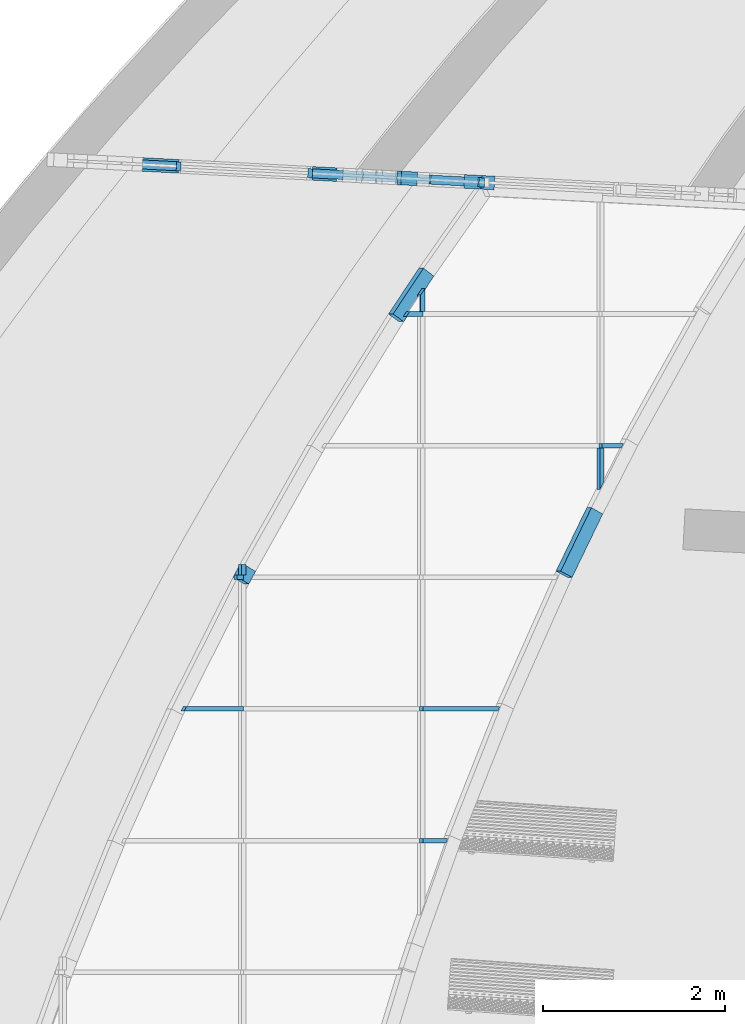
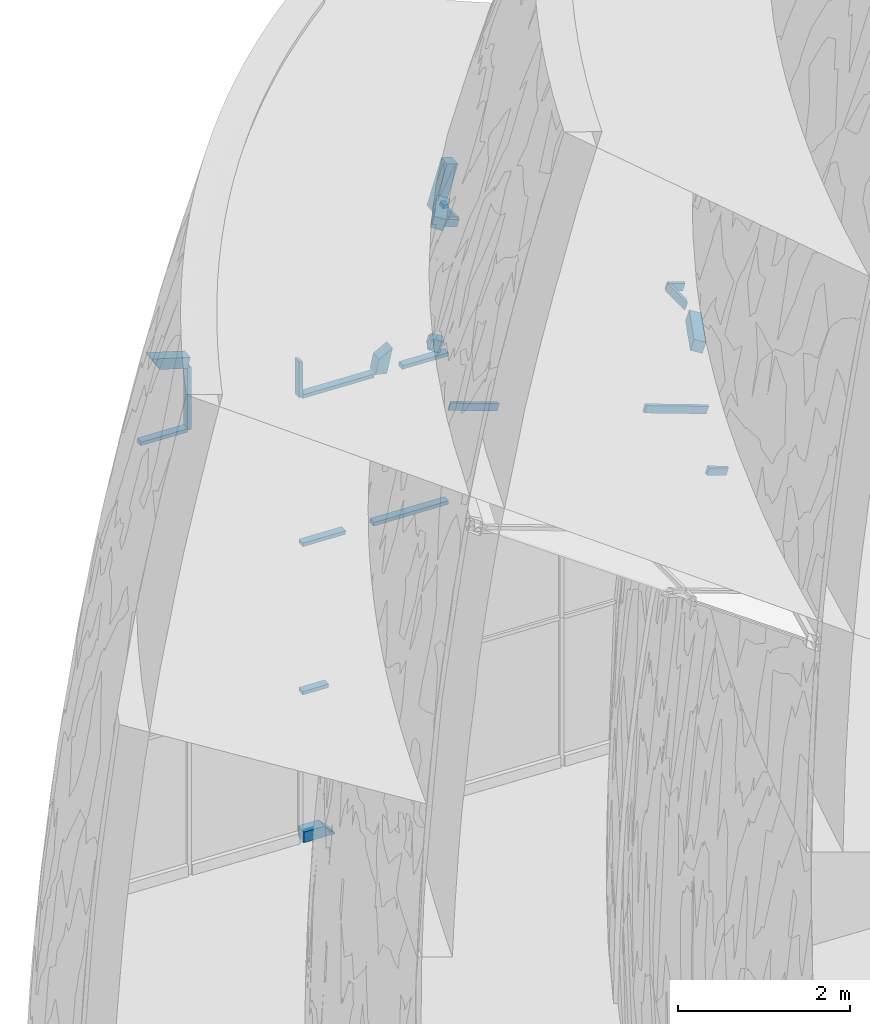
# One storey, part 30 of 82: 25 members, 2 elements without a shape of their own.
"""IFC2X3 building model written with IfcOpenShell, lengths in millimetres."""

from ifc_helpers import new_model, entity, si_unit, converted_unit, derived_unit, direction, frame, frame_2d, origin, origin_2d_with_axis, place, context, subcontext, project, spatial, polyline, rectangle, extrude, clip, halfspace, bounded_halfspace, source, transform, mapped, material, type_object, type_shapes, element, aggregate, save


model = new_model("IFC2X3")

# Units and contexts
model_context = context("Model", 3, precision=0.01, world=origin(), true_north=direction((6.12303176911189e-17, 1.0)))
body_context = subcontext(model_context, "Body", "Model", "MODEL_VIEW")
ifc_project = project(units=[si_unit("LENGTHUNIT", "METRE", prefix="MILLI"), si_unit("AREAUNIT", "SQUARE_METRE"), si_unit("VOLUMEUNIT", "CUBIC_METRE"), converted_unit("PLANEANGLEUNIT", "DEGREE", entity("IfcRatioMeasure", 0.0174532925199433), si_unit("PLANEANGLEUNIT", "RADIAN"), dimensions=[0, 0, 0, 0, 0, 0, 0]), si_unit("MASSUNIT", "GRAM", prefix="KILO"), derived_unit("MASSDENSITYUNIT", [(si_unit("MASSUNIT", "GRAM", prefix="KILO"), 1), (si_unit("LENGTHUNIT", "METRE"), -3)]), si_unit("TIMEUNIT", "SECOND"), si_unit("FREQUENCYUNIT", "HERTZ"), si_unit("THERMODYNAMICTEMPERATUREUNIT", "DEGREE_CELSIUS"), derived_unit("THERMALTRANSMITTANCEUNIT", [(si_unit("MASSUNIT", "GRAM", prefix="KILO"), 1), (si_unit("THERMODYNAMICTEMPERATUREUNIT", "KELVIN"), -1), (si_unit("TIMEUNIT", "SECOND"), -3)]), derived_unit("VOLUMETRICFLOWRATEUNIT", [(si_unit("LENGTHUNIT", "METRE"), 3), (si_unit("TIMEUNIT", "SECOND"), -1)]), si_unit("ELECTRICCURRENTUNIT", "AMPERE"), si_unit("ELECTRICVOLTAGEUNIT", "VOLT"), si_unit("POWERUNIT", "WATT"), si_unit("FORCEUNIT", "NEWTON", prefix="KILO"), si_unit("ILLUMINANCEUNIT", "LUX"), si_unit("LUMINOUSFLUXUNIT", "LUMEN"), si_unit("LUMINOUSINTENSITYUNIT", "CANDELA"), derived_unit("USERDEFINED", [(si_unit("MASSUNIT", "GRAM", prefix="KILO"), -1), (si_unit("LENGTHUNIT", "METRE"), -2), (si_unit("TIMEUNIT", "SECOND"), 3), (si_unit("LUMINOUSFLUXUNIT", "LUMEN"), 1)]), derived_unit("LINEARVELOCITYUNIT", [(si_unit("LENGTHUNIT", "METRE"), 1), (si_unit("TIMEUNIT", "SECOND"), -1)]), si_unit("PRESSUREUNIT", "PASCAL"), derived_unit("USERDEFINED", [(si_unit("LENGTHUNIT", "METRE"), -2), (si_unit("MASSUNIT", "GRAM", prefix="KILO"), 1), (si_unit("TIMEUNIT", "SECOND"), -2)])], contexts=[model_context])

# Site, building, storey
site_placement = place(None, origin())
site = spatial("IfcSite", under=ifc_project, at=site_placement, Name="表面", CompositionType="ELEMENT")
building_placement = place(site_placement, origin())
building = spatial("IfcBuilding", under=site, at=building_placement, CompositionType="ELEMENT")
storey_placement = place(building_placement, origin())
storey = spatial("IfcBuildingStorey", under=building, at=storey_placement, Name="1F", CompositionType="ELEMENT", Elevation=0.0)

# Curtain wall, members
curtain_wall_type = type_object("IfcCurtainWallType", Name="幕墙系统:1450 x 2100mm", PredefinedType="NOTDEFINED")
curtain_wall_1_placement = place(storey_placement, origin())
curtain_wall_1 = element("IfcCurtainWall", 1, at=curtain_wall_1_placement, inside=storey, type_object=curtain_wall_type, Name="幕墙系统:1450 x 2100mm", ObjectType="幕墙系统:1450 x 2100mm")
ifc_material_1 = material(Name="木质 - 木材")
member_type_1 = type_object("IfcMemberType", Name="200 x 150mm", PredefinedType="MEMBER")
shared_shape_1 = source(origin(), body_context, "Body", "Clipping", [
    clip(extrude(rectangle(XDim=150.0, YDim=150.0, at=origin_2d_with_axis()), frame((-75.0, 0.0, -412.924190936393), z_axis=(0.0, 0.0, 1.0), x_axis=(0.0, -1.0, 0.0)), (0.0, 0.0, 1.0), 412.924190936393), halfspace(frame((0.0, -304.8, 0.0), z_axis=(-0.694612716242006, 0.0, 0.719383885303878), x_axis=(-0.719383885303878, 0.0, -0.694612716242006)), False)),
])
type_shapes(member_type_1, [shared_shape_1])
member_1_placement = place(storey_placement, frame((-33596.5702290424, 2980.13858409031, 0.0), z_axis=(0.998629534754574, -0.0523359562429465, 0.0), x_axis=(0.0, 0.0, -1.0)))
member_1 = element("IfcMember", 2, at=member_1_placement, type_object=member_type_1, material=ifc_material_1, Name="矩形竖梃:200 x 150mm", ObjectType="200 x 150mm", context=body_context, shape_type="MappedRepresentation", body=[
    mapped(shared_shape_1, transform((0.0, 0.0, 0.0), scale=1.0)),
])
member_type_2 = type_object("IfcMemberType", Name="200 x 150mm", PredefinedType="MEMBER")
shared_shape_2 = source(origin(), body_context, "Body", "Clipping", [
    clip(extrude(rectangle(XDim=150.0, YDim=150.0, at=frame_2d((0.0, 1.4210854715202e-14), x_axis=(1.0, 0.0))), frame((-75.0, 0.0, -527.765848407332), z_axis=(0.0, 0.0, 1.0), x_axis=(0.0, -1.0, 0.0)), (0.0, 0.0, 1.0), 527.765848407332), halfspace(frame((0.0, -304.8, 0.0), z_axis=(-0.718126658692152, 0.0, 0.695912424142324), x_axis=(-0.695912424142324, 0.0, -0.718126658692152)), False)),
])
type_shapes(member_type_2, [shared_shape_2])
placement_1 = place(building_placement, frame((0.0, 0.0, 6000.0)))
member_2_placement = place(placement_1, frame((-35991.0378195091, 3105.62731307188, 1479.59629560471), z_axis=(-0.964690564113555, 0.0505572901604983, 0.25848805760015), x_axis=(0.258133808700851, -0.0135282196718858, 0.966014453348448)))
member_2 = element("IfcMember", 3, at=member_2_placement, type_object=member_type_2, material=ifc_material_1, Name="矩形竖梃:200 x 150mm", ObjectType="200 x 150mm", context=body_context, shape_type="MappedRepresentation", body=[
    mapped(shared_shape_2, transform((0.0, 0.0, 0.0), scale=1.0)),
])
member_type_3 = type_object("IfcMemberType", Name="200 x 150mm", PredefinedType="MEMBER")
shared_shape_3 = source(origin(), body_context, "Body", "Clipping", [
    clip(clip(extrude(rectangle(XDim=150.0, YDim=150.0, at=frame_2d((0.0, -1.4210854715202e-14), x_axis=(1.0, 0.0))), frame((-75.0, 0.0, -350.212580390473), z_axis=(0.0, 0.0, 1.0), x_axis=(0.0, -1.0, 0.0)), (0.0, 0.0, 1.0), 350.212580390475), halfspace(frame((0.0, 304.8, -347.111052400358), z_axis=(0.0206724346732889, 0.0, -0.999786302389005), x_axis=(0.999786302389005, 0.0, 0.0206724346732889)), False)), halfspace(frame((0.0, -304.8, 0.0), z_axis=(-0.691356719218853, 0.0, 0.722513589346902), x_axis=(-0.722513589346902, 0.0, -0.691356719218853)), False)),
])
type_shapes(member_type_3, [shared_shape_3])
member_3_placement = place(placement_1, frame((-32853.6706308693, 2941.20486591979, 638.94129104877), z_axis=(0.215386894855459, -0.0112879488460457, 0.976463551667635), x_axis=(0.975125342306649, -0.0511041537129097, -0.215682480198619)))
member_3 = element("IfcMember", 4, at=member_3_placement, type_object=member_type_3, material=ifc_material_1, Name="矩形竖梃:200 x 150mm", ObjectType="200 x 150mm", context=body_context, shape_type="MappedRepresentation", body=[
    mapped(shared_shape_3, transform((0.0, 0.0, 0.0), scale=1.0)),
])
ifc_material_2 = material(Name="金属 - 铝")
member_type_4 = type_object("IfcMemberType", Name="50 x 100mm", PredefinedType="MEMBER")
shared_shape_4 = source(origin(), body_context, "Body", "Clipping", [
    clip(extrude(rectangle(XDim=100.0, YDim=50.0, at=origin_2d_with_axis()), frame((0.0, 0.0, -761.073573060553), z_axis=(0.0, 0.0, 1.0), x_axis=(0.0, -1.0, 0.0)), (0.0, 0.0, 1.0), 612.869898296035), halfspace(frame((-30.1608618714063, 75.0, -146.995076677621), z_axis=(0.228016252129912, 0.0, 0.973657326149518), x_axis=(0.973657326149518, 0.0, -0.228016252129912)), False)),
])
type_shapes(member_type_4, [shared_shape_4])
member_4_placement = place(placement_1, frame((-36266.9033720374, 3120.08481406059, 300.0), z_axis=(-0.998629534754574, 0.0523359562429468, 0.0), x_axis=(0.0, 0.0, 1.0)))
member_4 = element("IfcMember", 5, at=member_4_placement, type_object=member_type_4, material=ifc_material_2, Name="矩形竖梃:50 x 100mm", ObjectType="50 x 100mm", context=body_context, shape_type="MappedRepresentation", body=[
    mapped(shared_shape_4, transform((0.0, 0.0, 0.0), scale=1.0)),
])
member_type_5 = type_object("IfcMemberType", Name="50 x 100mm", PredefinedType="MEMBER")
shared_shape_5 = source(origin(), body_context, "Body", "Clipping", [
    clip(extrude(rectangle(XDim=100.0, YDim=50.0, at=origin_2d_with_axis()), frame((0.0, 0.0, -1043.17512658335), z_axis=(0.0, 0.0, 1.0), x_axis=(0.0, -1.0, 0.0)), (0.0, 0.0, 1.0), 894.587496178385), halfspace(frame((-38.7732086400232, 75.0, -144.902168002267), z_axis=(0.258488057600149, 0.0, 0.966014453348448), x_axis=(0.966014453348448, 0.0, -0.258488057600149)), False)),
])
type_shapes(member_type_5, [shared_shape_5])
member_5_placement = place(placement_1, frame((-35481.9070854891, 3078.94490193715, 1343.1751265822), z_axis=(0.0, 0.0, 1.0), x_axis=(0.998629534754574, -0.0523359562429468, 0.0)))
member_5 = element("IfcMember", 6, at=member_5_placement, type_object=member_type_5, material=ifc_material_2, Name="矩形竖梃:50 x 100mm", ObjectType="50 x 100mm", context=body_context, shape_type="MappedRepresentation", body=[
    mapped(shared_shape_5, transform((0.0, 0.0, 0.0), scale=1.0)),
])
member_type_6 = type_object("IfcMemberType", Name="50 x 100mm", PredefinedType="MEMBER")
shared_shape_6 = source(origin(), body_context, "Body", "Clipping", [
    clip(clip(extrude(rectangle(XDim=100.0, YDim=50.0, at=origin_2d_with_axis()), frame((0.0, 0.0, -338.331250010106), z_axis=(0.0, 0.0, 1.0), x_axis=(0.0, -1.0, 0.0)), (0.0, 0.0, 1.0), 338.331250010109), bounded_halfspace(frame((10.5209240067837, 75.0, -336.801323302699), z_axis=(-0.0350263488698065, 0.0, -0.999386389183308), x_axis=(-0.999386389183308, 0.0, 0.0350263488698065)), False, frame((0.0, 0.0, -338.331250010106), z_axis=(0.0, 0.0, 1.0), x_axis=(0.0, -1.0, 0.0)), polyline([(50.0, 10.5209240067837), (50.0, -25.0), (-50.0, -25.0), (-50.0, 10.5209240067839), (50.0, 10.5209240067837)]))), bounded_halfspace(frame((2115.76195265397, 75.0, -559.250910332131), z_axis=(-0.105079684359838, 0.0, -0.994463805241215), x_axis=(-0.994463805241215, 0.0, 0.105079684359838)), False, frame((0.0, 0.0, -338.331250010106), z_axis=(0.0, 0.0, 1.0), x_axis=(0.0, -1.0, 0.0)), polyline([(-50.0, 25.0), (50.0, 25.0), (50.0, 10.5209240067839), (-50.0, 10.5209240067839), (-50.0, 25.0)]))),
])
type_shapes(member_type_6, [shared_shape_6])
member_6_placement = place(storey_placement, frame((-34008.9285217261, 3001.74936647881, 2100.0), z_axis=(-0.998629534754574, 0.0523359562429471, 0.0), x_axis=(0.0, 0.0, 1.0)))
member_6 = element("IfcMember", 7, at=member_6_placement, type_object=member_type_6, material=ifc_material_2, Name="矩形竖梃:50 x 100mm", ObjectType="50 x 100mm", context=body_context, shape_type="MappedRepresentation", body=[
    mapped(shared_shape_6, transform((0.0, 0.0, 0.0), scale=1.0)),
])
member_type_7 = type_object("IfcMemberType", Name="50 x 100mm", PredefinedType="MEMBER")
shared_shape_7 = source(origin(), body_context, "Body", "Clipping", [
    clip(clip(extrude(rectangle(XDim=100.0, YDim=50.0, at=origin_2d_with_axis()), frame((0.0, 0.0, -560.512859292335), z_axis=(0.0, 0.0, 1.0), x_axis=(0.0, -1.0, 0.0)), (0.0, 0.0, 1.0), 560.512859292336), bounded_halfspace(frame((21.042437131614, 75.0, -559.808870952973), z_axis=(-0.105079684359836, 0.0, -0.994463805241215), x_axis=(-0.994463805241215, 0.0, 0.105079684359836)), False, frame((0.0, 0.0, -560.512859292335), z_axis=(0.0, 0.0, 1.0), x_axis=(0.0, -1.0, 0.0)), polyline([(50.0, 21.042437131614), (50.0, -25.0), (-50.0, -25.0), (-50.0, 21.042437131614), (50.0, 21.042437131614)]))), bounded_halfspace(frame((2126.27025089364, 75.0, -934.295867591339), z_axis=(-0.175135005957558, 0.0, -0.984544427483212), x_axis=(-0.984544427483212, 0.0, 0.175135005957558)), False, frame((0.0, 0.0, -560.512859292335), z_axis=(0.0, 0.0, 1.0), x_axis=(0.0, -1.0, 0.0)), polyline([(-50.0, 25.0), (50.0, 25.0), (50.0, 21.042437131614), (-50.0, 21.042437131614), (-50.0, 25.0)]))),
])
type_shapes(member_type_7, [shared_shape_7])
placement_2 = place(building_placement, frame((0.0, 0.0, 3000.0)))
member_7_placement = place(placement_2, frame((-34008.9285217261, 3001.74936647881, 1200.0), z_axis=(-0.998629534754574, 0.0523359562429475, 0.0), x_axis=(0.0, 0.0, 1.0)))
member_7 = element("IfcMember", 8, at=member_7_placement, type_object=member_type_7, material=ifc_material_2, Name="矩形竖梃:50 x 100mm", ObjectType="50 x 100mm", context=body_context, shape_type="MappedRepresentation", body=[
    mapped(shared_shape_7, transform((0.0, 0.0, 0.0), scale=1.0)),
])
member_type_8 = type_object("IfcMemberType", Name="50 x 100mm", PredefinedType="MEMBER")
shared_shape_8 = source(origin(), body_context, "Body", "Clipping", [
    clip(extrude(rectangle(XDim=100.0, YDim=50.0, at=origin_2d_with_axis()), frame((0.0, 0.0, -934.069909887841), z_axis=(0.0, 0.0, 1.0), x_axis=(0.0, -1.0, 0.0)), (0.0, 0.0, 1.0), 934.069909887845), halfspace(frame((29.3238429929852, 75.0, -934.839053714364), z_axis=(-0.175135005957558, 0.0, -0.984544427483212), x_axis=(-0.984544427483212, 0.0, 0.175135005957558)), False)),
])
type_shapes(member_type_8, [shared_shape_8])
member_8_placement = place(placement_1, frame((-34008.9285217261, 3001.74936647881, 300.0), z_axis=(-0.998629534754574, 0.0523359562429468, 0.0), x_axis=(0.0, 0.0, 1.0)))
member_8 = element("IfcMember", 9, at=member_8_placement, type_object=member_type_8, material=ifc_material_2, Name="矩形竖梃:50 x 100mm", ObjectType="50 x 100mm", context=body_context, shape_type="MappedRepresentation", body=[
    mapped(shared_shape_8, transform((0.0, 0.0, 0.0), scale=1.0)),
])
member_type_9 = type_object("IfcMemberType", Name="50 x 100mm", PredefinedType="MEMBER")
shared_shape_9 = source(origin(), body_context, "Body", "Clipping", [
    clip(extrude(rectangle(XDim=100.0, YDim=50.0, at=origin_2d_with_axis()), frame((0.0, 0.0, -655.18125938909), z_axis=(0.0, 0.0, 1.0), x_axis=(0.0, -1.0, 0.0)), (0.0, 0.0, 1.0), 506.593628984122), halfspace(frame((-38.7732086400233, 75.0, -144.902168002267), z_axis=(0.258488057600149, 0.0, 0.966014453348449), x_axis=(0.966014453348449, 0.0, -0.258488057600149)), False)),
])
type_shapes(member_type_9, [shared_shape_9])
member_9_placement = place(placement_1, frame((-34033.894260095, 3003.05776538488, 955.181259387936), z_axis=(0.0, 0.0, 1.0), x_axis=(0.998629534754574, -0.0523359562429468, 0.0)))
member_9 = element("IfcMember", 10, at=member_9_placement, type_object=member_type_9, material=ifc_material_2, Name="矩形竖梃:50 x 100mm", ObjectType="50 x 100mm", context=body_context, shape_type="MappedRepresentation", body=[
    mapped(shared_shape_9, transform((0.0, 0.0, 0.0), scale=1.0)),
])
aggregate(curtain_wall_1, [member_1, member_2, member_3, member_4, member_5, member_6, member_7, member_8, member_9])

curtain_wall_2_placement = place(storey_placement, origin())
curtain_wall_2 = element("IfcCurtainWall", 11, at=curtain_wall_2_placement, inside=storey, type_object=curtain_wall_type, Name="幕墙系统:1450 x 2100mm", ObjectType="幕墙系统:1450 x 2100mm")
member_type_10 = type_object("IfcMemberType", Name="200 x 150mm", PredefinedType="MEMBER")
shared_shape_10 = source(origin(), body_context, "Body", "Clipping", [
    clip(clip(extrude(rectangle(XDim=150.0, YDim=150.0, at=frame_2d((0.0, 3.5527136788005e-14), x_axis=(1.0, 0.0))), frame((-75.0, 0.0, -785.268817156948), z_axis=(0.0, 0.0, 1.0), x_axis=(0.0, -1.0, 0.0)), (0.0, 0.0, 1.0), 787.745892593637), halfspace(frame((0.0, 304.799999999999, -783.566579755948), z_axis=(0.0113475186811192, 0.0, -0.999935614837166), x_axis=(0.999935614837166, 0.0, 0.0113475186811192)), False)), halfspace(frame((0.0, 304.799999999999, 0.0), z_axis=(0.016511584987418, 0.0, 0.999863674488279), x_axis=(0.999863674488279, 0.0, -0.016511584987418)), False)),
])
type_shapes(member_type_10, [shared_shape_10])
member_10_placement = place(placement_1, frame((-31173.7641143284, -1446.8767198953, 2666.59049756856), z_axis=(-0.43034276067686, -0.888972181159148, 0.156631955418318), x_axis=(0.835360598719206, -0.457961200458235, -0.304046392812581)))
member_10 = element("IfcMember", 12, at=member_10_placement, type_object=member_type_10, material=ifc_material_1, Name="矩形竖梃:200 x 150mm", ObjectType="200 x 150mm", context=body_context, shape_type="MappedRepresentation", body=[
    mapped(shared_shape_10, transform((0.0, 0.0, 0.0), scale=1.0)),
])
member_type_11 = type_object("IfcMemberType", Name="200 x 150mm", PredefinedType="MEMBER")
shared_shape_11 = source(origin(), body_context, "Body", "Clipping", [
    clip(clip(extrude(rectangle(XDim=150.0, YDim=150.0, at=frame_2d((0.0, -3.5527136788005e-14), x_axis=(1.0, 0.0))), frame((-75.0, 0.0, -618.239370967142), z_axis=(0.0, 0.0, 1.0), x_axis=(0.0, -1.0, 0.0)), (0.0, 0.0, 1.0), 618.239370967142), halfspace(frame((0.0, -304.8, -618.239370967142), z_axis=(-0.0161667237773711, 0.0, -0.999869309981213), x_axis=(-0.999869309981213, 0.0, 0.0161667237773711)), False)), halfspace(frame((0.0, -304.8, 0.0), z_axis=(-0.0123354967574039, 0.0, 0.9999239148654), x_axis=(-0.9999239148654, 0.0, -0.0123354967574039)), False)),
])
type_shapes(member_type_11, [shared_shape_11])
placement_3 = place(building_placement, frame((0.0, 0.0, 9000.0)))
member_11_placement = place(placement_3, frame((-32809.9164128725, 1957.60176952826, 262.101232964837), z_axis=(0.543201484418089, 0.815992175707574, -0.197709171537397), x_axis=(-0.766781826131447, 0.57806294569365, 0.279085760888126)))
member_11 = element("IfcMember", 13, at=member_11_placement, type_object=member_type_11, material=ifc_material_1, Name="矩形竖梃:200 x 150mm", ObjectType="200 x 150mm", context=body_context, shape_type="MappedRepresentation", body=[
    mapped(shared_shape_11, transform((0.0, 0.0, 0.0), scale=1.0)),
])
member_type_12 = type_object("IfcMemberType", Name="200 x 150mm", PredefinedType="MEMBER")
shared_shape_12 = source(origin(), body_context, "Body", "SweptSolid", [
    extrude(rectangle(XDim=150.0, YDim=150.0, at=frame_2d((-2.8421709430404e-14, 1.4210854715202e-14), x_axis=(1.0, 0.0))), frame((-75.0, 0.0, -160.122668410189), z_axis=(0.0, 0.0, 1.0), x_axis=(0.0, -1.0, 0.0)), (0.0, 0.0, 1.0), 160.122668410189),
])
type_shapes(member_type_12, [shared_shape_12])
member_12_placement = place(placement_3, frame((-34783.270916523, -1307.60589741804, 980.343533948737), z_axis=(0.463688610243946, 0.86977580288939, -0.168768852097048), x_axis=(-0.817321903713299, 0.49344711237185, 0.297480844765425)))
member_12 = element("IfcMember", 14, at=member_12_placement, type_object=member_type_12, material=ifc_material_1, Name="矩形竖梃:200 x 150mm", ObjectType="200 x 150mm", context=body_context, shape_type="MappedRepresentation", body=[
    mapped(shared_shape_12, transform((0.0, 0.0, 0.0), scale=1.0)),
])
member_type_13 = type_object("IfcMemberType", Name="50 x 100mm", PredefinedType="MEMBER")
shared_shape_13 = source(origin(), body_context, "Body", "Clipping", [
    clip(extrude(rectangle(XDim=100.0, YDim=50.0, at=origin_2d_with_axis()), frame((0.0, 0.0, -460.572057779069), z_axis=(0.0, 0.0, 1.0), x_axis=(0.0, -1.0, 0.0)), (0.0, 0.0, 1.0), 460.572057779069), halfspace(frame((132.566268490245, 75.0, -658.223686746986), z_axis=(-0.878350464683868, 0.0, -0.478017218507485), x_axis=(-0.478017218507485, 0.0, 0.878350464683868)), False)),
])
type_shapes(member_type_13, [shared_shape_13])
member_13_placement = place(placement_1, frame((-30836.5619092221, -21.8767198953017, 2543.85893198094), z_axis=(0.0, 1.0, 0.0), x_axis=(-0.93969262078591, 0.0, 0.342020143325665)))
member_13 = element("IfcMember", 15, at=member_13_placement, type_object=member_type_13, material=ifc_material_2, Name="矩形竖梃:50 x 100mm", ObjectType="50 x 100mm", context=body_context, shape_type="MappedRepresentation", body=[
    mapped(shared_shape_13, transform((0.0, 0.0, 0.0), scale=1.0)),
])
member_type_14 = type_object("IfcMemberType", Name="50 x 100mm", PredefinedType="MEMBER")
shared_shape_14 = source(origin(), body_context, "Body", "Clipping", [
    clip(extrude(rectangle(XDim=100.0, YDim=50.0, at=origin_2d_with_axis()), frame((0.0, 0.0, -479.478489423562), z_axis=(0.0, 0.0, 1.0), x_axis=(0.0, -1.0, 0.0)), (0.0, 0.0, 1.0), 255.281113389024), halfspace(frame((-121.329140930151, 75.0, -88.21940706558), z_axis=(0.815992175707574, 0.0, 0.57806294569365), x_axis=(0.57806294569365, 0.0, -0.815992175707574)), False)),
])
type_shapes(member_type_14, [shared_shape_14])
member_14_placement = place(placement_3, frame((-32809.9164128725, 1957.60176952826, 262.101232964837), z_axis=(0.0, 1.0, 0.0), x_axis=(-0.93969262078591, 0.0, 0.342020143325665)))
member_14 = element("IfcMember", 16, at=member_14_placement, type_object=member_type_14, material=ifc_material_2, Name="矩形竖梃:50 x 100mm", ObjectType="50 x 100mm", context=body_context, shape_type="MappedRepresentation", body=[
    mapped(shared_shape_14, transform((0.0, 0.0, 0.0), scale=1.0)),
])
member_type_15 = type_object("IfcMemberType", Name="50 x 100mm", PredefinedType="MEMBER")
shared_shape_15 = source(origin(), body_context, "Body", "SweptSolid", [
    extrude(rectangle(XDim=100.0, YDim=50.0, at=origin_2d_with_axis()), frame((0.0, 0.0, -114.270822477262), z_axis=(0.0, 0.0, 1.0), x_axis=(0.0, -1.0, 0.0)), (0.0, 0.0, 1.0), 114.270822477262),
])
type_shapes(member_type_15, [shared_shape_15])
member_15_placement = place(placement_3, frame((-34783.270916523, -1307.60589741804, 980.343533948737), z_axis=(0.0, 1.0, 0.0), x_axis=(-0.93969262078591, 0.0, 0.342020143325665)))
member_15 = element("IfcMember", 17, at=member_15_placement, type_object=member_type_15, material=ifc_material_2, Name="矩形竖梃:50 x 100mm", ObjectType="50 x 100mm", context=body_context, shape_type="MappedRepresentation", body=[
    mapped(shared_shape_15, transform((0.0, 0.0, 0.0), scale=1.0)),
])
member_type_16 = type_object("IfcMemberType", Name="50 x 100mm", PredefinedType="MEMBER")
shared_shape_16 = source(origin(), body_context, "Body", "Clipping", [
    clip(extrude(rectangle(XDim=100.0, YDim=50.0, at=origin_2d_with_axis()), frame((0.0, 0.0, -357.381271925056), z_axis=(0.0, 0.0, 1.0), x_axis=(0.0, -1.0, 0.0)), (0.0, 0.0, 1.0), 191.266411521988), halfspace(frame((-417.769047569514, 75.0, -479.780098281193), z_axis=(-0.57806294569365, 0.0, 0.815992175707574), x_axis=(0.815992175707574, 0.0, 0.57806294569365)), False)),
])
type_shapes(member_type_16, [shared_shape_16])
member_16_placement = place(placement_3, frame((-33145.7449569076, 1453.1232801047, 384.332826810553), z_axis=(-0.93969262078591, 0.0, 0.342020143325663), x_axis=(0.0, -1.0, 0.0)))
member_16 = element("IfcMember", 18, at=member_16_placement, type_object=member_type_16, material=ifc_material_2, Name="矩形竖梃:50 x 100mm", ObjectType="50 x 100mm", context=body_context, shape_type="MappedRepresentation", body=[
    mapped(shared_shape_16, transform((0.0, 0.0, 0.0), scale=1.0)),
])
member_type_17 = type_object("IfcMemberType", Name="50 x 100mm", PredefinedType="MEMBER")
shared_shape_17 = source(origin(), body_context, "Body", "SweptSolid", [
    extrude(rectangle(XDim=100.0, YDim=50.0, at=origin_2d_with_axis()), frame((0.0, 0.0, -79.012068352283), z_axis=(0.0, 0.0, 1.0), x_axis=(0.0, -1.0, 0.0)), (0.0, 0.0, 1.0), 79.012068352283),
])
type_shapes(member_type_17, [shared_shape_17])
member_17_placement = place(placement_3, frame((-34857.5179741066, -1446.87671989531, 1007.36725289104), z_axis=(-0.939692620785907, 0.0, 0.342020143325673), x_axis=(0.0, -1.0, 0.0)))
member_17 = element("IfcMember", 19, at=member_17_placement, type_object=member_type_17, material=ifc_material_2, Name="矩形竖梃:50 x 100mm", ObjectType="50 x 100mm", context=body_context, shape_type="MappedRepresentation", body=[
    mapped(shared_shape_17, transform((0.0, 0.0, 0.0), scale=1.0)),
])
member_type_18 = type_object("IfcMemberType", Name="50 x 100mm", PredefinedType="MEMBER")
shared_shape_18 = source(origin(), body_context, "Body", "Clipping", [
    clip(extrude(rectangle(XDim=100.0, YDim=50.0, at=origin_2d_with_axis()), frame((0.0, 0.0, -854.817847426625), z_axis=(0.0, 0.0, 1.0), x_axis=(0.0, -1.0, 0.0)), (0.0, 0.0, 1.0), 698.073296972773), halfspace(frame((-1379.2362491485, 75.0, -908.064962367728), z_axis=(-0.471758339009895, 0.0, 0.881727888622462), x_axis=(0.881727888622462, 0.0, 0.471758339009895)), False)),
])
type_shapes(member_type_18, [shared_shape_18])
member_18_placement = place(placement_3, frame((-35586.5369398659, -2896.8767198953, 1272.70845664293), z_axis=(-0.93969262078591, 0.0, 0.342020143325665), x_axis=(0.0, -1.0, 0.0)))
member_18 = element("IfcMember", 20, at=member_18_placement, type_object=member_type_18, material=ifc_material_2, Name="矩形竖梃:50 x 100mm", ObjectType="50 x 100mm", context=body_context, shape_type="MappedRepresentation", body=[
    mapped(shared_shape_18, transform((0.0, 0.0, 0.0), scale=1.0)),
])
member_type_19 = type_object("IfcMemberType", Name="50 x 100mm", PredefinedType="MEMBER")
shared_shape_19 = source(origin(), body_context, "Body", "Clipping", [
    clip(extrude(rectangle(XDim=100.0, YDim=50.0, at=origin_2d_with_axis()), frame((0.0, 0.0, -252.864297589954), z_axis=(0.0, 0.0, 1.0), x_axis=(0.0, -1.0, 0.0)), (0.0, 0.0, 1.0), 252.864297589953), halfspace(frame((681.728525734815, 75.0, 131.752569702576), z_axis=(0.478017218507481, 0.0, -0.878350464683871), x_axis=(-0.878350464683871, 0.0, -0.478017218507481)), False)),
])
type_shapes(member_type_19, [shared_shape_19])
member_19_placement = place(placement_1, frame((-30836.5619092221, 3.12328010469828, 2543.85893198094), z_axis=(-0.93969262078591, 0.0, 0.342020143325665), x_axis=(0.0, -1.0, 0.0)))
member_19 = element("IfcMember", 21, at=member_19_placement, type_object=member_type_19, material=ifc_material_2, Name="矩形竖梃:50 x 100mm", ObjectType="50 x 100mm", context=body_context, shape_type="MappedRepresentation", body=[
    mapped(shared_shape_19, transform((0.0, 0.0, 0.0), scale=1.0)),
])
member_type_20 = type_object("IfcMemberType", Name="50 x 100mm", PredefinedType="MEMBER")
shared_shape_20 = source(origin(), body_context, "Body", "Clipping", [
    clip(extrude(rectangle(XDim=100.0, YDim=50.0, at=origin_2d_with_axis()), frame((0.0, 0.0, -901.543539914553), z_axis=(0.0, 0.0, 1.0), x_axis=(0.0, -1.0, 0.0)), (0.0, 0.0, 1.0), 901.543539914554), halfspace(frame((1391.76301724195, 75.0, -304.668656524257), z_axis=(0.388246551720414, 0.0, -0.921555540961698), x_axis=(-0.921555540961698, 0.0, -0.388246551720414)), False)),
])
type_shapes(member_type_20, [shared_shape_20])
member_20_placement = place(placement_3, frame((-32809.9164128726, -2896.87671989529, 262.10123296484), z_axis=(-0.93969262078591, 0.0, 0.342020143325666), x_axis=(0.0, -1.0, 0.0)))
member_20 = element("IfcMember", 22, at=member_20_placement, type_object=member_type_20, material=ifc_material_2, Name="矩形竖梃:50 x 100mm", ObjectType="50 x 100mm", context=body_context, shape_type="MappedRepresentation", body=[
    mapped(shared_shape_20, transform((0.0, 0.0, 0.0), scale=1.0)),
])
member_type_21 = type_object("IfcMemberType", Name="50 x 100mm", PredefinedType="MEMBER")
shared_shape_21 = source(origin(), body_context, "Body", "Clipping", [
    clip(extrude(rectangle(XDim=100.0, YDim=50.0, at=origin_2d_with_axis()), frame((0.0, 0.0, -292.051791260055), z_axis=(0.0, 0.0, 1.0), x_axis=(0.0, -1.0, 0.0)), (0.0, 0.0, 1.0), 292.051791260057), halfspace(frame((1125.44441259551, 75.0, 140.407496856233), z_axis=(0.351867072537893, 0.0, -0.936049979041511), x_axis=(-0.936049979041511, 0.0, -0.351867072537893)), False)),
])
type_shapes(member_type_21, [shared_shape_21])
member_21_placement = place(placement_3, frame((-32809.9164128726, -4346.8767198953, 262.10123296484), z_axis=(-0.939692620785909, 0.0, 0.342020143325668), x_axis=(0.0, -1.0, 0.0)))
member_21 = element("IfcMember", 23, at=member_21_placement, type_object=member_type_21, material=ifc_material_2, Name="矩形竖梃:50 x 100mm", ObjectType="50 x 100mm", context=body_context, shape_type="MappedRepresentation", body=[
    mapped(shared_shape_21, transform((0.0, 0.0, 0.0), scale=1.0)),
])
member_type_22 = type_object("IfcMemberType", Name="200 x 150mm", PredefinedType="MEMBER")
shared_shape_22 = source(origin(), body_context, "Body", "Clipping", [
    clip(extrude(rectangle(XDim=150.0, YDim=150.0, at=frame_2d((0.0, 3.5527136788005e-14), x_axis=(1.0, 0.0))), frame((-75.0, 0.0, -648.889283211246), z_axis=(0.0, 0.0, 1.0), x_axis=(0.0, -1.0, 0.0)), (0.0, 0.0, 1.0), 648.889283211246), halfspace(frame((0.0, -304.8, 0.0), z_axis=(-0.0235130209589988, 0.0, 0.999723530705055), x_axis=(-0.999723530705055, 0.0, -0.0235130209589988)), False)),
])
type_shapes(member_type_22, [shared_shape_22])
member_22_placement = place(placement_1, frame((-32335.5335581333, 2913.00528560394, 2400.0), z_axis=(-0.290588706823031, 0.0152291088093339, -0.95672685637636), x_axis=(-0.955415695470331, 0.0500712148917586, 0.290987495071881)))
member_22 = element("IfcMember", 24, at=member_22_placement, type_object=member_type_22, material=ifc_material_1, Name="矩形竖梃:200 x 150mm", ObjectType="200 x 150mm", context=body_context, shape_type="MappedRepresentation", body=[
    mapped(shared_shape_22, transform((0.0, 0.0, 0.0), scale=1.0)),
])
member_type_23 = type_object("IfcMemberType", Name="50 x 100mm", PredefinedType="MEMBER")
shared_shape_23 = source(origin(), body_context, "Body", "Clipping", [
    clip(clip(extrude(rectangle(XDim=100.0, YDim=50.0, at=origin_2d_with_axis()), frame((0.0, 0.0, -1128.90415323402), z_axis=(0.0, 0.0, 1.0), x_axis=(0.0, -1.0, 0.0)), (0.0, 0.0, 1.0), 980.712699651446), bounded_halfspace(frame((-21.0848722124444, 75.0, -148.605985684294), z_axis=(0.175487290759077, 0.0, 0.984481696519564), x_axis=(0.984481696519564, 0.0, -0.175487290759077)), False, frame((0.0, 0.0, -1128.90415323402), z_axis=(0.0, 0.0, 1.0), x_axis=(0.0, -1.0, 0.0)), polyline([(-50.0, 25.0), (-50.0, -21.0848722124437), (50.0, -21.0848722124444), (50.0, 25.0), (-50.0, 25.0)]))), bounded_halfspace(frame((-2115.79365704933, 75.0, 73.1809091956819), z_axis=(0.105291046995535, 0.0, 0.994441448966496), x_axis=(0.994441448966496, 0.0, -0.105291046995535)), False, frame((0.0, 0.0, -1128.90415323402), z_axis=(0.0, 0.0, 1.0), x_axis=(0.0, -1.0, 0.0)), polyline([(-50.0, -21.0848722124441), (-50.0, -25.0), (50.0, -25.0), (50.0, -21.084872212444), (-50.0, -21.0848722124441)]))),
])
type_shapes(member_type_23, [shared_shape_23])
member_23_placement = place(placement_2, frame((-33240.8804520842, 2960.45250579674, 1200.0), z_axis=(-0.998629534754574, 0.0523359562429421, 0.0), x_axis=(0.0, 0.0, 1.0)))
member_23 = element("IfcMember", 25, at=member_23_placement, type_object=member_type_23, material=ifc_material_2, Name="矩形竖梃:50 x 100mm", ObjectType="50 x 100mm", context=body_context, shape_type="MappedRepresentation", body=[
    mapped(shared_shape_23, transform((0.0, 0.0, 0.0), scale=1.0)),
])
member_type_24 = type_object("IfcMemberType", Name="50 x 100mm", PredefinedType="MEMBER")
shared_shape_24 = source(origin(), body_context, "Body", "Clipping", [
    clip(extrude(rectangle(XDim=100.0, YDim=50.0, at=origin_2d_with_axis()), frame((0.0, 0.0, -754.571840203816), z_axis=(0.0, 0.0, 1.0), x_axis=(0.0, -1.0, 0.0)), (0.0, 0.0, 1.0), 606.165234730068), halfspace(frame((-31.6288572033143, 75.0, -146.726483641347), z_axis=(0.245687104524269, 0.0, 0.969349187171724), x_axis=(0.969349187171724, 0.0, -0.245687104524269)), False)),
])
type_shapes(member_type_24, [shared_shape_24])
member_24_placement = place(placement_1, frame((-32867.0611484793, 2940.86146624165, 300.0), z_axis=(-0.998629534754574, 0.0523359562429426, 0.0), x_axis=(0.0, 0.0, 1.0)))
member_24 = element("IfcMember", 26, at=member_24_placement, type_object=member_type_24, material=ifc_material_2, Name="矩形竖梃:50 x 100mm", ObjectType="50 x 100mm", context=body_context, shape_type="MappedRepresentation", body=[
    mapped(shared_shape_24, transform((0.0, 0.0, 0.0), scale=1.0)),
])
member_type_25 = type_object("IfcMemberType", Name="50 x 100mm", PredefinedType="MEMBER")
shared_shape_25 = source(origin(), body_context, "Body", "Clipping", [
    clip(extrude(rectangle(XDim=100.0, YDim=50.0, at=origin_2d_with_axis()), frame((0.0, 0.0, -222.314810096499), z_axis=(0.0, 0.0, 1.0), x_axis=(0.0, -1.0, 0.0)), (0.0, 0.0, 1.0), 73.1339737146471), halfspace(frame((-40.2728603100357, 75.0, -144.53561153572), z_axis=(0.290987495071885, 0.0, 0.956726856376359), x_axis=(0.956726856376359, 0.0, -0.290987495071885)), False)),
])
type_shapes(member_type_25, [shared_shape_25])
member_25_placement = place(placement_1, frame((-32335.5335581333, 2913.00528560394, 2400.0), z_axis=(-0.998629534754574, 0.0523359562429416, 0.0), x_axis=(0.0, 0.0, 1.0)))
member_25 = element("IfcMember", 27, at=member_25_placement, type_object=member_type_25, material=ifc_material_2, Name="矩形竖梃:50 x 100mm", ObjectType="50 x 100mm", context=body_context, shape_type="MappedRepresentation", body=[
    mapped(shared_shape_25, transform((0.0, 0.0, 0.0), scale=1.0)),
])
aggregate(curtain_wall_2, [member_10, member_11, member_12, member_13, member_14, member_15, member_16, member_17, member_18, member_19, member_20, member_21, member_22, member_23, member_24, member_25])

save(model, "model.ifc")
